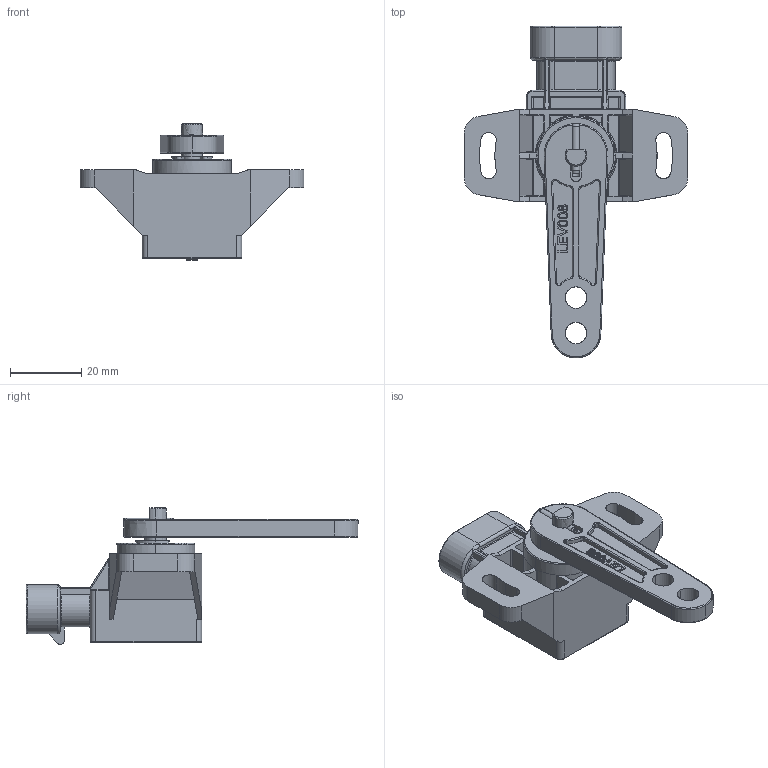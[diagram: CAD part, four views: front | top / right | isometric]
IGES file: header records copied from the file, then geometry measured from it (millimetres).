
Start section: SolidWorks IGES file using analytic representation for surfaces
Global section: file name: \\srv4gefran\dir-cat\Disegni Catalogo\Mobile\GR3P\GR3P 50\3D\Solidworks 2024\GR3PA S5E1HS xxx xxxx B0.IGS; native system: SolidWorks 2024; preprocessor: SolidWorks 2024; author: Loda-w1; date: 241219.161006; units: millimetre
Bounding box: 63 x 93.5 x 38.47 mm (x, y, z)
Surface area: 16406 mm2 (no closed solid volume)
Topology: 0 solids, 0 shells, 752 faces, 7044 edges, 7004 vertices
Faces by surface type: bspline 429, revolution 323
